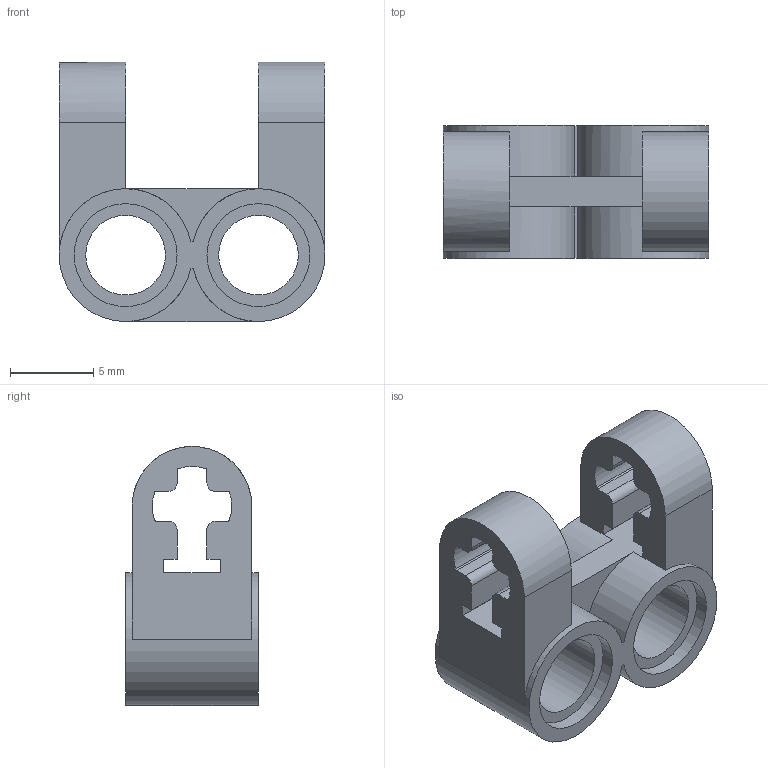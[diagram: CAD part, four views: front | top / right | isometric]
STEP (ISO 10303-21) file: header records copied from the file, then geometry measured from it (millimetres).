
FILE_DESCRIPTION(/* description */ ('Unknown'),/* implementation_level */ '2;1');
FILE_NAME(/* name */ 'ClGray_4211889_MCM',/* time_stamp */ '2025-07-21T23:54:19+02:00',/* author */ ('Unknown'),/* organization */ ('Unknown'),/* preprocessor_version */ 'ST-DEVELOPER v19.4',/* originating_system */ 'Solid Edge',/* authorisation */ 'Unknown');
FILE_SCHEMA (('AUTOMOTIVE_DESIGN {1 0 10303 214 3 1 1}'));
Length unit declared in the file: millimetre
Products named in the file (1): ClGray_4211889_MCM
Bounding box: 16 x 8 x 15.6 mm (x, y, z)
Volume: 799.3 mm3; surface area: 1228.7 mm2
Topology: 1 solids, 1 shells, 84 faces, 238 edges, 158 vertices
Faces by surface type: plane 48, cylinder 36
Full cylindrical faces by diameter (mm): 4.8 x2, 6.2 x4
Entity records: 2748 total; most frequent: DIRECTION 484, CARTESIAN_POINT 471, ORIENTED_EDGE 460, EDGE_CURVE 230, AXIS2_PLACEMENT_3D 169, VERTEX_POINT 156, LINE 146, VECTOR 146
